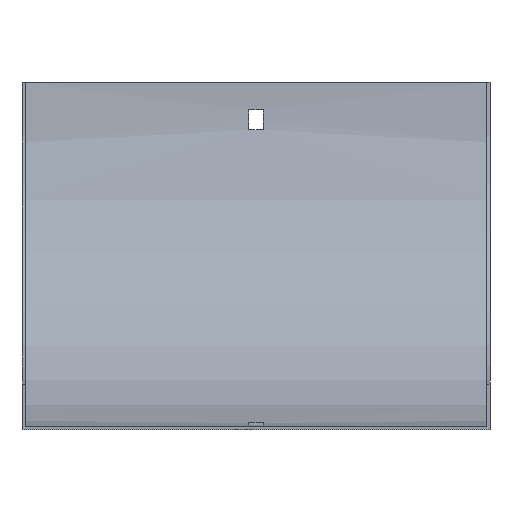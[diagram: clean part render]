
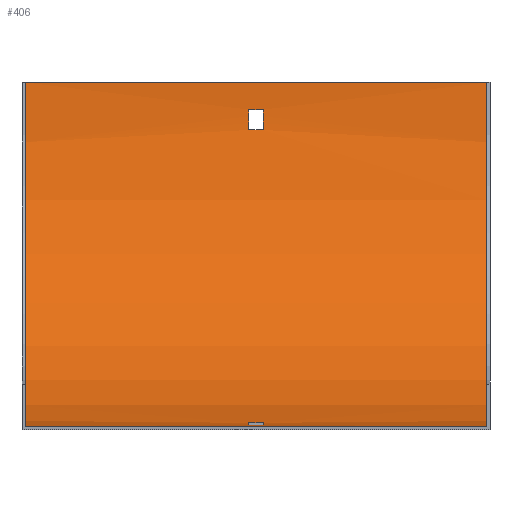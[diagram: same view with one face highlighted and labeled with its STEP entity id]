
A CAD part, front view. The second image highlights one B-rep face of the part: STEP entity #406.
In plain terms, the highlighted cylindrical face has radius 152 mm (diameter 304 mm), a partial arc.
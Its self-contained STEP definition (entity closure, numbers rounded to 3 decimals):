
#1 = EDGE_CURVE ( 'NONE', #429, #265, #157, .T. ) ;
#6 = ORIENTED_EDGE ( 'NONE', *, *, #453, .F. ) ;
#7 = AXIS2_PLACEMENT_3D ( 'NONE', #601, #33, #212 ) ;
#25 = DIRECTION ( 'NONE',  ( 0., 0., 1. ) ) ;
#27 = ORIENTED_EDGE ( 'NONE', *, *, #561, .T. ) ;
#32 = CIRCLE ( 'NONE', #7, 152. ) ;
#33 = DIRECTION ( 'NONE',  ( 1., 0., 0. ) ) ;
#36 = CIRCLE ( 'NONE', #377, 152. ) ;
#39 = DIRECTION ( 'NONE',  ( -1., 0., 0. ) ) ;
#44 = VERTEX_POINT ( 'NONE', #327 ) ;
#70 = CARTESIAN_POINT ( 'NONE',  ( 103.5, -141.5, -151.526 ) ) ;
#72 = DIRECTION ( 'NONE',  ( -1., 0., 0. ) ) ;
#75 = ORIENTED_EDGE ( 'NONE', *, *, #566, .F. ) ;
#76 = DIRECTION ( 'NONE',  ( 0., 0., -1. ) ) ;
#79 = EDGE_CURVE ( 'NONE', #416, #44, #124, .T. ) ;
#81 = ORIENTED_EDGE ( 'NONE', *, *, #431, .T. ) ;
#82 = CARTESIAN_POINT ( 'NONE',  ( 102., -153.5, -152. ) ) ;
#90 = CARTESIAN_POINT ( 'NONE',  ( 103.5, -1.974, -12. ) ) ;
#91 = VERTEX_POINT ( 'NONE', #543 ) ;
#109 = VERTEX_POINT ( 'NONE', #253 ) ;
#114 = CARTESIAN_POINT ( 'NONE',  ( 3.25, -2.958, -21. ) ) ;
#115 = LINE ( 'NONE', #338, #179 ) ;
#122 = DIRECTION ( 'NONE',  ( 1., 0., 0. ) ) ;
#124 = LINE ( 'NONE', #70, #550 ) ;
#127 = DIRECTION ( 'NONE',  ( 0., 0., 1. ) ) ;
#128 = AXIS2_PLACEMENT_3D ( 'NONE', #355, #495, #76 ) ;
#155 = VECTOR ( 'NONE', #276, 1000. ) ;
#157 = LINE ( 'NONE', #339, #570 ) ;
#159 = DIRECTION ( 'NONE',  ( 1., 0., 0. ) ) ;
#167 = CYLINDRICAL_SURFACE ( 'NONE', #316, 152. ) ;
#168 = DIRECTION ( 'NONE',  ( -1., 0., 0. ) ) ;
#175 = ORIENTED_EDGE ( 'NONE', *, *, #1, .F. ) ;
#179 = VECTOR ( 'NONE', #159, 1000. ) ;
#182 = ORIENTED_EDGE ( 'NONE', *, *, #79, .T. ) ;
#191 = EDGE_LOOP ( 'NONE', ( #75, #220, #462, #175 ) ) ;
#202 = DIRECTION ( 'NONE',  ( 0., 0., -1. ) ) ;
#205 = CARTESIAN_POINT ( 'NONE',  ( 3.25, -1.974, -12. ) ) ;
#209 = DIRECTION ( 'NONE',  ( 0., 0., 1. ) ) ;
#212 = DIRECTION ( 'NONE',  ( 0., 0., 1. ) ) ;
#213 = EDGE_CURVE ( 'NONE', #579, #307, #515, .T. ) ;
#214 = CARTESIAN_POINT ( 'NONE',  ( 3.25, -132.5, -150.542 ) ) ;
#220 = ORIENTED_EDGE ( 'NONE', *, *, #213, .F. ) ;
#243 = AXIS2_PLACEMENT_3D ( 'NONE', #344, #122, #202 ) ;
#245 = DIRECTION ( 'NONE',  ( 1., 0., 0. ) ) ;
#253 = CARTESIAN_POINT ( 'NONE',  ( -102., -153.5, -152. ) ) ;
#261 = EDGE_CURVE ( 'NONE', #109, #277, #497, .T. ) ;
#262 = FACE_OUTER_BOUND ( 'NONE', #351, .T. ) ;
#265 = VERTEX_POINT ( 'NONE', #114 ) ;
#276 = DIRECTION ( 'NONE',  ( -1., 0., 0. ) ) ;
#277 = VERTEX_POINT ( 'NONE', #487 ) ;
#278 = VECTOR ( 'NONE', #39, 1000. ) ;
#281 = VERTEX_POINT ( 'NONE', #387 ) ;
#283 = CARTESIAN_POINT ( 'NONE',  ( -3.25, -132.5, -150.542 ) ) ;
#292 = DIRECTION ( 'NONE',  ( 0., 0., 1. ) ) ;
#294 = CIRCLE ( 'NONE', #243, 152. ) ;
#296 = EDGE_CURVE ( 'NONE', #321, #396, #115, .T. ) ;
#298 = CARTESIAN_POINT ( 'NONE',  ( -3.25, -1.974, -12. ) ) ;
#307 = VERTEX_POINT ( 'NONE', #298 ) ;
#315 = ORIENTED_EDGE ( 'NONE', *, *, #581, .T. ) ;
#316 = AXIS2_PLACEMENT_3D ( 'NONE', #363, #505, #209 ) ;
#321 = VERTEX_POINT ( 'NONE', #283 ) ;
#327 = CARTESIAN_POINT ( 'NONE',  ( -3.25, -141.5, -151.526 ) ) ;
#335 = EDGE_CURVE ( 'NONE', #281, #91, #32, .T. ) ;
#337 = EDGE_LOOP ( 'NONE', ( #182, #27, #526, #81 ) ) ;
#338 = CARTESIAN_POINT ( 'NONE',  ( 103.5, -132.5, -150.542 ) ) ;
#339 = CARTESIAN_POINT ( 'NONE',  ( 103.5, -2.958, -21. ) ) ;
#343 = VECTOR ( 'NONE', #72, 1000. ) ;
#344 = CARTESIAN_POINT ( 'NONE',  ( -3.25, -153.5, 0. ) ) ;
#351 = EDGE_LOOP ( 'NONE', ( #412, #6, #576, #315 ) ) ;
#352 = CARTESIAN_POINT ( 'NONE',  ( -3.25, -2.958, -21. ) ) ;
#355 = CARTESIAN_POINT ( 'NONE',  ( 3.25, -153.5, 0. ) ) ;
#363 = CARTESIAN_POINT ( 'NONE',  ( 103.5, -153.5, 0. ) ) ;
#377 = AXIS2_PLACEMENT_3D ( 'NONE', #393, #398, #25 ) ;
#387 = CARTESIAN_POINT ( 'NONE',  ( 102., -153.5, -152. ) ) ;
#389 = EDGE_CURVE ( 'NONE', #265, #579, #391, .T. ) ;
#391 = CIRCLE ( 'NONE', #128, 152. ) ;
#393 = CARTESIAN_POINT ( 'NONE',  ( -3.25, -153.5, 0. ) ) ;
#396 = VERTEX_POINT ( 'NONE', #214 ) ;
#397 = CIRCLE ( 'NONE', #478, 152. ) ;
#398 = DIRECTION ( 'NONE',  ( -1., 0., 0. ) ) ;
#402 = CARTESIAN_POINT ( 'NONE',  ( 3.25, -153.5, 0. ) ) ;
#406 = ADVANCED_FACE ( 'NONE', ( #553, #262, #592 ), #167, .F. ) ;
#412 = ORIENTED_EDGE ( 'NONE', *, *, #261, .F. ) ;
#416 = VERTEX_POINT ( 'NONE', #547 ) ;
#428 = CARTESIAN_POINT ( 'NONE',  ( -102., -153.5, 0. ) ) ;
#429 = VERTEX_POINT ( 'NONE', #352 ) ;
#431 = EDGE_CURVE ( 'NONE', #396, #416, #397, .T. ) ;
#453 = EDGE_CURVE ( 'NONE', #281, #109, #503, .T. ) ;
#455 = DIRECTION ( 'NONE',  ( -1., 0., 0. ) ) ;
#462 = ORIENTED_EDGE ( 'NONE', *, *, #389, .F. ) ;
#478 = AXIS2_PLACEMENT_3D ( 'NONE', #402, #455, #127 ) ;
#487 = CARTESIAN_POINT ( 'NONE',  ( -102., -1.5, 0. ) ) ;
#489 = CARTESIAN_POINT ( 'NONE',  ( 102., -1.5, 0. ) ) ;
#495 = DIRECTION ( 'NONE',  ( 1., 0., 0. ) ) ;
#497 = CIRCLE ( 'NONE', #538, 152. ) ;
#503 = LINE ( 'NONE', #82, #278 ) ;
#505 = DIRECTION ( 'NONE',  ( -1., 0., 0. ) ) ;
#515 = LINE ( 'NONE', #90, #155 ) ;
#526 = ORIENTED_EDGE ( 'NONE', *, *, #296, .T. ) ;
#533 = DIRECTION ( 'NONE',  ( 1., 0., 0. ) ) ;
#538 = AXIS2_PLACEMENT_3D ( 'NONE', #428, #245, #292 ) ;
#541 = LINE ( 'NONE', #489, #343 ) ;
#543 = CARTESIAN_POINT ( 'NONE',  ( 102., -1.5, 0. ) ) ;
#547 = CARTESIAN_POINT ( 'NONE',  ( 3.25, -141.5, -151.526 ) ) ;
#550 = VECTOR ( 'NONE', #168, 1000. ) ;
#553 = FACE_BOUND ( 'NONE', #191, .T. ) ;
#561 = EDGE_CURVE ( 'NONE', #44, #321, #294, .T. ) ;
#566 = EDGE_CURVE ( 'NONE', #307, #429, #36, .T. ) ;
#570 = VECTOR ( 'NONE', #533, 1000. ) ;
#576 = ORIENTED_EDGE ( 'NONE', *, *, #335, .T. ) ;
#579 = VERTEX_POINT ( 'NONE', #205 ) ;
#581 = EDGE_CURVE ( 'NONE', #91, #277, #541, .T. ) ;
#592 = FACE_BOUND ( 'NONE', #337, .T. ) ;
#601 = CARTESIAN_POINT ( 'NONE',  ( 102., -153.5, 0. ) ) ;
